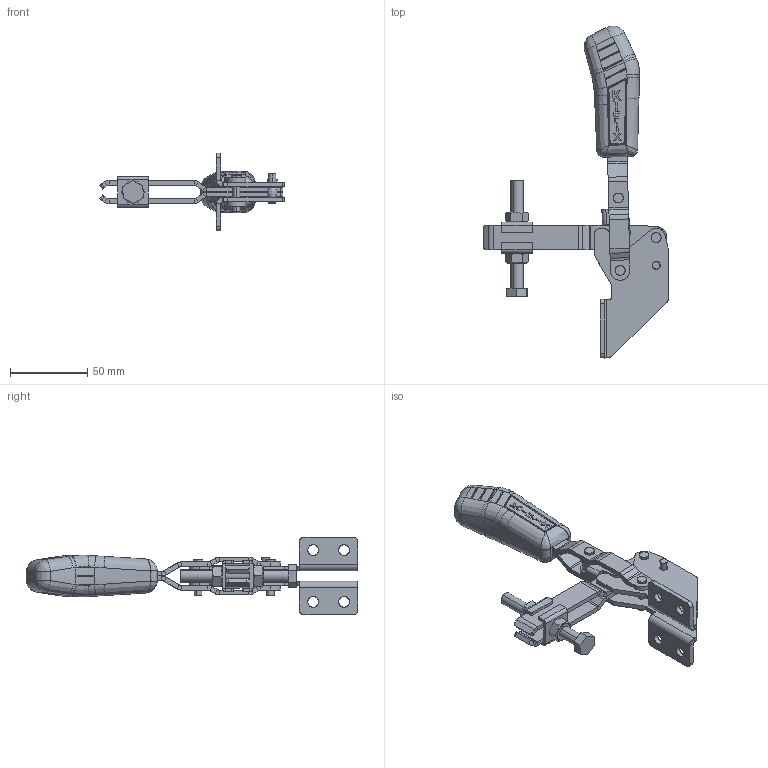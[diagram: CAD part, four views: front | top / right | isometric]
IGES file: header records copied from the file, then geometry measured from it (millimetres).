
Start section: SolidWorks IGES file using analytic representation for surfaces
Global section: file name: C:\Projetos\Grampos\KF-019\KF-019 DB\KF-019 DB.IGS; native system: SolidWorks 2013; preprocessor: SolidWorks 2013; author: Ricardo; date: 140731.093129; units: millimetre
Bounding box: 119.9 x 215.18 x 50.5 mm (x, y, z)
Surface area: 55563.3 mm2 (no closed solid volume)
Topology: 0 solids, 0 shells, 814 faces, 8527 edges, 8514 vertices
Faces by surface type: bspline 525, revolution 289
